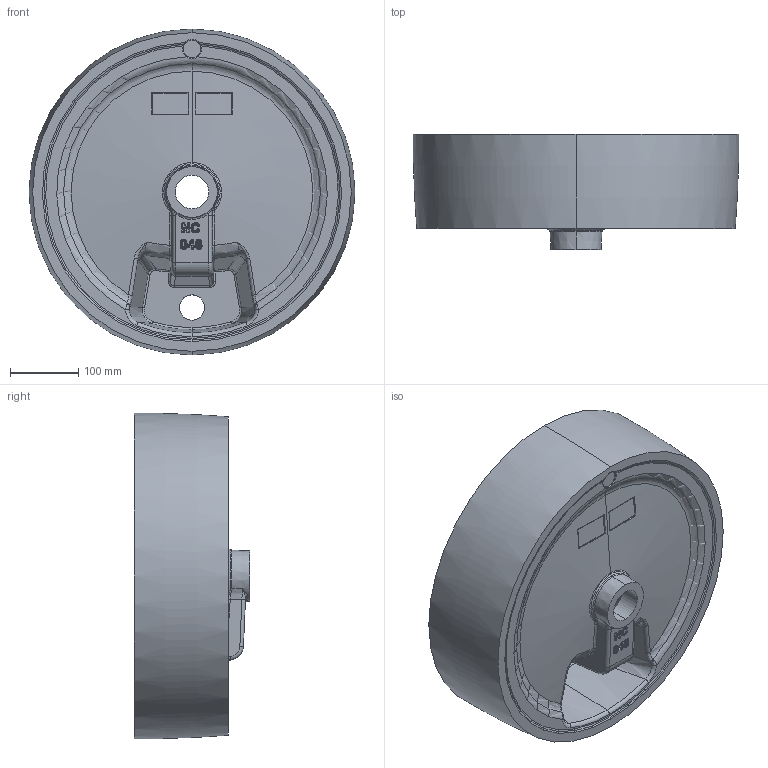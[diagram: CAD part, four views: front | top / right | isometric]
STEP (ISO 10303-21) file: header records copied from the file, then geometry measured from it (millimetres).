
FILE_DESCRIPTION (( 'STEP AP203' ), '1' );
FILE_NAME ('NC046.STEP', '2022-04-06T07:25:46', ( '' ), ( '' ), 'SwSTEP 2.0', 'SolidWorks 2021', '' );
FILE_SCHEMA (( 'CONFIG_CONTROL_DESIGN' ));
Length unit declared in the file: millimetre
Products named in the file (1): NC046
Bounding box: 478.72 x 169.34 x 478.72 mm (x, y, z)
Volume: 10105004.4 mm3; surface area: 720528.6 mm2
Topology: 2 solids, 2 shells, 598 faces, 1388 edges, 778 vertices
Faces by surface type: bspline 280, cylinder 111, sphere 93, plane 64, torus 27, cone 23
Entity records: 32189 total; most frequent: CARTESIAN_POINT 21025, ORIENTED_EDGE 2618, DIRECTION 1938, EDGE_CURVE 1309, AXIS2_PLACEMENT_3D 846, VERTEX_POINT 736, EDGE_LOOP 605, ADVANCED_FACE 588
